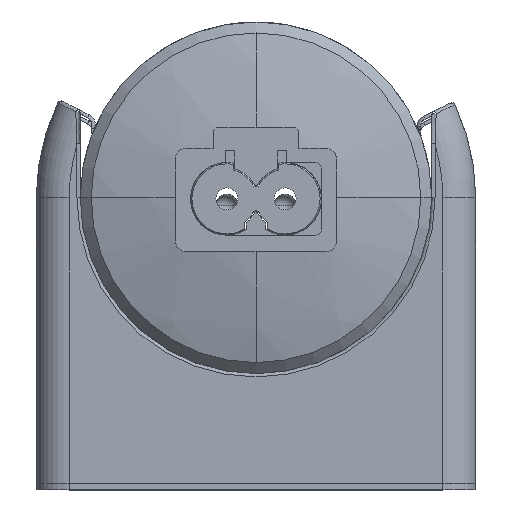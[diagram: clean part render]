
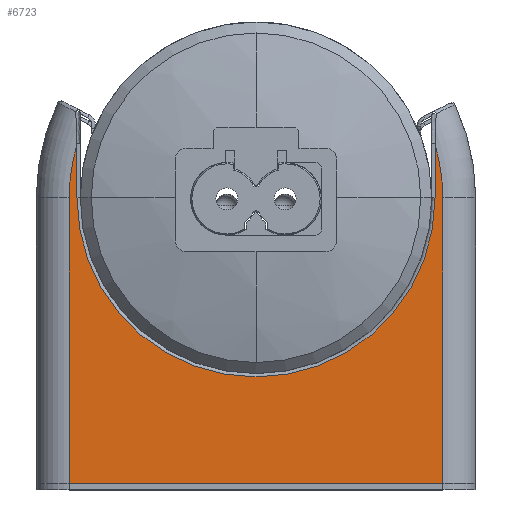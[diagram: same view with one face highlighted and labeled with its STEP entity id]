
A CAD part, top view. The second image highlights one B-rep face of the part: STEP entity #6723.
In plain terms, the highlighted planar face has unit normal (0, 0, 1).
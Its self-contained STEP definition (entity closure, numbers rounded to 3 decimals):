
#1524 = AXIS2_PLACEMENT_3D ( 'NONE', #15595, #15596, #15597 ) ;
#1547 = AXIS2_PLACEMENT_3D ( 'NONE', #15801, #15802, #15803 ) ;
#1549 = AXIS2_PLACEMENT_3D ( 'NONE', #15815, #15816, #15817 ) ;
#6723 = ADVANCED_FACE ( 'NONE', ( #33463 ), #34120, .F. ) ;
#14259 = LINE ( 'NONE', #15525, #14267 ) ;
#14267 = VECTOR ( 'NONE', #15521, 1000. ) ;
#14289 = CIRCLE ( 'NONE', #1524, 17. ) ;
#14383 = CIRCLE ( 'NONE', #1547, 16.3 ) ;
#14386 = LINE ( 'NONE', #15799, #14388 ) ;
#14387 = LINE ( 'NONE', #15809, #14390 ) ;
#14388 = VECTOR ( 'NONE', #15800, 1000. ) ;
#14389 = LINE ( 'NONE', #15811, #14392 ) ;
#14390 = VECTOR ( 'NONE', #15810, 1000. ) ;
#14391 = CIRCLE ( 'NONE', #1549, 17. ) ;
#14392 = VECTOR ( 'NONE', #15812, 1000. ) ;
#14393 = LINE ( 'NONE', #15804, #14395 ) ;
#14395 = VECTOR ( 'NONE', #15805, 1000. ) ;
#15521 = DIRECTION ( 'NONE',  ( 0., -1., 0. ) ) ;
#15525 = CARTESIAN_POINT ( 'NONE',  ( -17., 16., 170. ) ) ;
#15595 = CARTESIAN_POINT ( 'NONE',  ( 0., 0., 170. ) ) ;
#15596 = DIRECTION ( 'NONE',  ( 0., 0., 1. ) ) ;
#15597 = DIRECTION ( 'NONE',  ( -1., 0., 0. ) ) ;
#15799 = CARTESIAN_POINT ( 'NONE',  ( -16.3, 5.745, 170. ) ) ;
#15800 = DIRECTION ( 'NONE',  ( 0., 1., 0. ) ) ;
#15801 = CARTESIAN_POINT ( 'NONE',  ( 0., 0., 170. ) ) ;
#15802 = DIRECTION ( 'NONE',  ( 0., 0., -1. ) ) ;
#15803 = DIRECTION ( 'NONE',  ( -1., 0., 0. ) ) ;
#15804 = CARTESIAN_POINT ( 'NONE',  ( 16.3, 16., 170. ) ) ;
#15805 = DIRECTION ( 'NONE',  ( 0., -1., 0. ) ) ;
#15809 = CARTESIAN_POINT ( 'NONE',  ( -20., -26., 170. ) ) ;
#15810 = DIRECTION ( 'NONE',  ( 1., 0., 0. ) ) ;
#15811 = CARTESIAN_POINT ( 'NONE',  ( 17., 16., 170. ) ) ;
#15812 = DIRECTION ( 'NONE',  ( 0., 1., 0. ) ) ;
#15815 = CARTESIAN_POINT ( 'NONE',  ( 0., 0., 170. ) ) ;
#15816 = DIRECTION ( 'NONE',  ( 0., 0., 1. ) ) ;
#15817 = DIRECTION ( 'NONE',  ( -1., 0., 0. ) ) ;
#16111 = CARTESIAN_POINT ( 'NONE',  ( 17., 0., 170. ) ) ;
#16173 = CARTESIAN_POINT ( 'NONE',  ( -16.3, 4.828, 170. ) ) ;
#16224 = CARTESIAN_POINT ( 'NONE',  ( 16.3, 0., 170. ) ) ;
#16300 = CARTESIAN_POINT ( 'NONE',  ( -16.3, 0., 170. ) ) ;
#16339 = CARTESIAN_POINT ( 'NONE',  ( 17., -26., 170. ) ) ;
#16356 = CARTESIAN_POINT ( 'NONE',  ( -17., -26., 170. ) ) ;
#16362 = CARTESIAN_POINT ( 'NONE',  ( -17., 0., 170. ) ) ;
#16396 = CARTESIAN_POINT ( 'NONE',  ( 16.3, 4.828, 170. ) ) ;
#19624 = EDGE_LOOP ( 'NONE', ( #22665, #22666, #22667, #22668, #22669, #22670, #22671, #22672 ) ) ;
#21235 = EDGE_CURVE ( 'NONE', #23081, #23075, #14259, .T. ) ;
#21253 = EDGE_CURVE ( 'NONE', #22892, #23081, #14289, .T. ) ;
#21324 = EDGE_CURVE ( 'NONE', #22943, #23019, #14383, .T. ) ;
#21326 = EDGE_CURVE ( 'NONE', #23019, #22892, #14386, .T. ) ;
#21327 = EDGE_CURVE ( 'NONE', #23075, #23058, #14387, .T. ) ;
#21328 = EDGE_CURVE ( 'NONE', #23058, #22830, #14389, .T. ) ;
#21329 = EDGE_CURVE ( 'NONE', #22830, #23115, #14391, .T. ) ;
#21330 = EDGE_CURVE ( 'NONE', #23115, #22943, #14393, .T. ) ;
#22665 = ORIENTED_EDGE ( 'NONE', *, *, #21324, .T. ) ;
#22666 = ORIENTED_EDGE ( 'NONE', *, *, #21326, .T. ) ;
#22667 = ORIENTED_EDGE ( 'NONE', *, *, #21253, .T. ) ;
#22668 = ORIENTED_EDGE ( 'NONE', *, *, #21235, .T. ) ;
#22669 = ORIENTED_EDGE ( 'NONE', *, *, #21327, .T. ) ;
#22670 = ORIENTED_EDGE ( 'NONE', *, *, #21328, .T. ) ;
#22671 = ORIENTED_EDGE ( 'NONE', *, *, #21329, .T. ) ;
#22672 = ORIENTED_EDGE ( 'NONE', *, *, #21330, .T. ) ;
#22830 = VERTEX_POINT ( 'NONE', #16111 ) ;
#22892 = VERTEX_POINT ( 'NONE', #16173 ) ;
#22943 = VERTEX_POINT ( 'NONE', #16224 ) ;
#23019 = VERTEX_POINT ( 'NONE', #16300 ) ;
#23058 = VERTEX_POINT ( 'NONE', #16339 ) ;
#23075 = VERTEX_POINT ( 'NONE', #16356 ) ;
#23081 = VERTEX_POINT ( 'NONE', #16362 ) ;
#23115 = VERTEX_POINT ( 'NONE', #16396 ) ;
#29322 = AXIS2_PLACEMENT_3D ( 'NONE', #34128, #34129, #34130 ) ;
#33463 = FACE_OUTER_BOUND ( 'NONE', #19624, .T. ) ;
#34120 = PLANE ( 'NONE',  #29322 ) ;
#34128 = CARTESIAN_POINT ( 'NONE',  ( -20., 16., 170. ) ) ;
#34129 = DIRECTION ( 'NONE',  ( 0., 0., -1. ) ) ;
#34130 = DIRECTION ( 'NONE',  ( -1., 0., 0. ) ) ;
